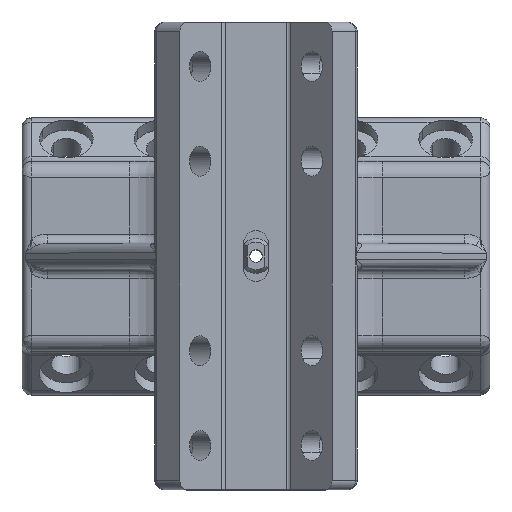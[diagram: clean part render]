
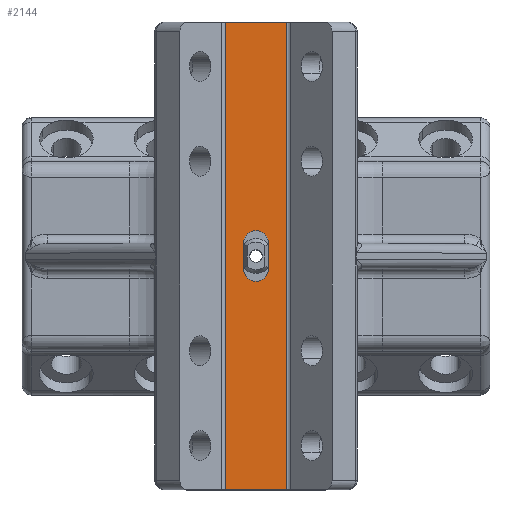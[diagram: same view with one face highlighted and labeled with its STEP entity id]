
A CAD part, top view. The second image highlights one B-rep face of the part: STEP entity #2144.
In plain terms, the highlighted planar face has unit normal (0, 0, 1).
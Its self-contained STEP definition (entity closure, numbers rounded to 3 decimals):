
#609=CARTESIAN_POINT('Vertex',(9.734,-74.,95.)) ;
#612=CARTESIAN_POINT('Line Origine',(0.,-74.,95.)) ;
#616=CARTESIAN_POINT('Vertex',(-9.734,-74.,95.)) ;
#646=CARTESIAN_POINT('Line Origine',(-9.734,0.,95.)) ;
#650=CARTESIAN_POINT('Vertex',(-9.734,74.,95.)) ;
#670=CARTESIAN_POINT('Line Origine',(0.,74.,95.)) ;
#674=CARTESIAN_POINT('Vertex',(9.734,74.,95.)) ;
#2087=CARTESIAN_POINT('Line Origine',(9.734,0.,95.)) ;
#2099=CARTESIAN_POINT('Axis2P3D Location',(9.734,0.,95.)) ;
#2110=CARTESIAN_POINT('Axis2P3D Location',(0.,-4.,95.)) ;
#2114=CARTESIAN_POINT('Vertex',(-4.,-4.,95.)) ;
#2116=CARTESIAN_POINT('Vertex',(4.,-4.,95.)) ;
#2119=CARTESIAN_POINT('Line Origine',(-4.,0.,95.)) ;
#2123=CARTESIAN_POINT('Vertex',(-4.,4.,95.)) ;
#2126=CARTESIAN_POINT('Axis2P3D Location',(0.,4.,95.)) ;
#2130=CARTESIAN_POINT('Vertex',(4.,4.,95.)) ;
#2133=CARTESIAN_POINT('Line Origine',(4.,0.,95.)) ;
#613=DIRECTION('Vector Direction',(-1.,0.,0.)) ;
#647=DIRECTION('Vector Direction',(0.,1.,0.)) ;
#671=DIRECTION('Vector Direction',(-1.,0.,0.)) ;
#2088=DIRECTION('Vector Direction',(0.,1.,0.)) ;
#2100=DIRECTION('Axis2P3D Direction',(0.,0.,-1.)) ;
#2101=DIRECTION('Axis2P3D XDirection',(-1.,0.,0.)) ;
#2111=DIRECTION('Axis2P3D Direction',(0.,0.,-1.)) ;
#2120=DIRECTION('Vector Direction',(0.,1.,0.)) ;
#2127=DIRECTION('Axis2P3D Direction',(0.,0.,-1.)) ;
#2134=DIRECTION('Vector Direction',(0.,-1.,0.)) ;
#2102=AXIS2_PLACEMENT_3D('Plane Axis2P3D',#2099,#2100,#2101) ;
#2112=AXIS2_PLACEMENT_3D('Circle Axis2P3D',#2110,#2111,$) ;
#2128=AXIS2_PLACEMENT_3D('Circle Axis2P3D',#2126,#2127,$) ;
#2105=ORIENTED_EDGE('',*,*,#652,.F.) ;
#2106=ORIENTED_EDGE('',*,*,#618,.T.) ;
#2107=ORIENTED_EDGE('',*,*,#2091,.T.) ;
#2108=ORIENTED_EDGE('',*,*,#676,.F.) ;
#2139=ORIENTED_EDGE('',*,*,#2118,.F.) ;
#2140=ORIENTED_EDGE('',*,*,#2125,.F.) ;
#2141=ORIENTED_EDGE('',*,*,#2132,.F.) ;
#2142=ORIENTED_EDGE('',*,*,#2137,.F.) ;
#2143=FACE_BOUND('',#2138,.T.) ;
#614=VECTOR('Line Direction',#613,1.) ;
#648=VECTOR('Line Direction',#647,1.) ;
#672=VECTOR('Line Direction',#671,1.) ;
#2089=VECTOR('Line Direction',#2088,1.) ;
#2121=VECTOR('Line Direction',#2120,1.) ;
#2135=VECTOR('Line Direction',#2134,1.) ;
#2144=ADVANCED_FACE('Kreuzverbindung SW80 zu SW50',(#2109,#2143),#2103,.F.) ;
#2113=CIRCLE('generated circle',#2112,4.) ;
#2129=CIRCLE('generated circle',#2128,4.) ;
#618=EDGE_CURVE('',#617,#610,#615,.F.) ;
#652=EDGE_CURVE('',#617,#651,#649,.T.) ;
#676=EDGE_CURVE('',#651,#675,#673,.F.) ;
#2091=EDGE_CURVE('',#610,#675,#2090,.T.) ;
#2118=EDGE_CURVE('',#2115,#2117,#2113,.F.) ;
#2125=EDGE_CURVE('',#2124,#2115,#2122,.F.) ;
#2132=EDGE_CURVE('',#2131,#2124,#2129,.F.) ;
#2137=EDGE_CURVE('',#2117,#2131,#2136,.F.) ;
#2104=EDGE_LOOP('',(#2105,#2106,#2107,#2108)) ;
#2138=EDGE_LOOP('',(#2139,#2140,#2141,#2142)) ;
#2109=FACE_OUTER_BOUND('',#2104,.T.) ;
#615=LINE('Line',#612,#614) ;
#649=LINE('Line',#646,#648) ;
#673=LINE('Line',#670,#672) ;
#2090=LINE('Line',#2087,#2089) ;
#2122=LINE('Line',#2119,#2121) ;
#2136=LINE('Line',#2133,#2135) ;
#2103=PLANE('',#2102) ;
#610=VERTEX_POINT('',#609) ;
#617=VERTEX_POINT('',#616) ;
#651=VERTEX_POINT('',#650) ;
#675=VERTEX_POINT('',#674) ;
#2115=VERTEX_POINT('',#2114) ;
#2117=VERTEX_POINT('',#2116) ;
#2124=VERTEX_POINT('',#2123) ;
#2131=VERTEX_POINT('',#2130) ;
